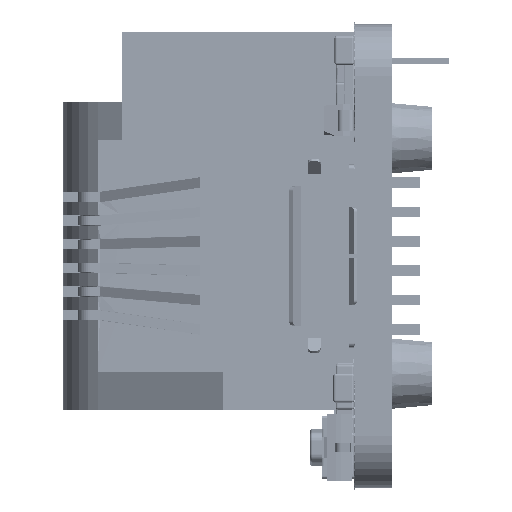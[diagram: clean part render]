
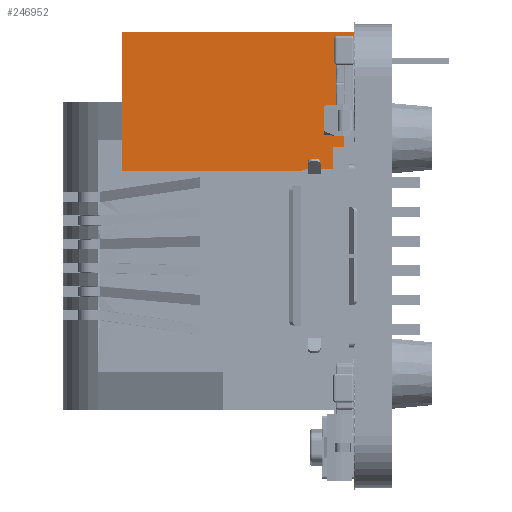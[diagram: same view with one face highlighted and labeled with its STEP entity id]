
A CAD part, left-side view. The second image highlights one B-rep face of the part: STEP entity #246952.
In plain terms, the highlighted planar face has unit normal (-1, 0, 0).
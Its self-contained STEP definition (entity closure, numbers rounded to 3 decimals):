
#199010 = LINE ( 'NONE', #199240, #199235 ) ;
#199229 = CARTESIAN_POINT ( 'NONE',  ( -5.75, 0., 7.285 ) ) ;
#199233 = DIRECTION ( 'NONE',  ( 0., -1., 0. ) ) ;
#199235 = VECTOR ( 'NONE', #199233, 1000. ) ;
#199240 = CARTESIAN_POINT ( 'NONE',  ( -5.75, 10., 7.285 ) ) ;
#199333 = CARTESIAN_POINT ( 'NONE',  ( -5.75, 10., 7.285 ) ) ;
#205293 = DIRECTION ( 'NONE',  ( 0., 0., 1. ) ) ;
#205295 = VECTOR ( 'NONE', #205293, 1000. ) ;
#205298 = CARTESIAN_POINT ( 'NONE',  ( -5.75, 10., 1.285 ) ) ;
#205300 = LINE ( 'NONE', #205298, #205295 ) ;
#205361 = DIRECTION ( 'NONE',  ( 0., 0., -1. ) ) ;
#205362 = VECTOR ( 'NONE', #205361, 1000. ) ;
#205364 = CARTESIAN_POINT ( 'NONE',  ( -5.75, 0., 7.285 ) ) ;
#205367 = LINE ( 'NONE', #205364, #205362 ) ;
#205798 = CARTESIAN_POINT ( 'NONE',  ( -5.75, 0., 1.285 ) ) ;
#205802 = CARTESIAN_POINT ( 'NONE',  ( -5.75, 10., 1.285 ) ) ;
#205807 = DIRECTION ( 'NONE',  ( 0., -1., 0. ) ) ;
#205808 = VECTOR ( 'NONE', #205807, 1000. ) ;
#205812 = CARTESIAN_POINT ( 'NONE',  ( -5.75, 10., 1.285 ) ) ;
#205815 = LINE ( 'NONE', #205812, #205808 ) ;
#205825 = DIRECTION ( 'NONE',  ( 0., 0., -1. ) ) ;
#205828 = DIRECTION ( 'NONE',  ( 1., 0., 0. ) ) ;
#205831 = AXIS2_PLACEMENT_3D ( 'NONE', #205843, #205828, #205825 ) ;
#205843 = CARTESIAN_POINT ( 'NONE',  ( -5.75, 10., 1.285 ) ) ;
#205844 = PLANE ( 'NONE',  #205831 ) ;
#205846 = FACE_OUTER_BOUND ( 'NONE', #246798, .T. ) ;
#245422 = EDGE_CURVE ( 'NONE', #245486, #245426, #199010, .T. ) ;
#245426 = VERTEX_POINT ( 'NONE', #199229 ) ;
#245486 = VERTEX_POINT ( 'NONE', #199333 ) ;
#246725 = EDGE_CURVE ( 'NONE', #245426, #246965, #205367, .T. ) ;
#246727 = ORIENTED_EDGE ( 'NONE', *, *, #245422, .F. ) ;
#246730 = ORIENTED_EDGE ( 'NONE', *, *, #246732, .F. ) ;
#246732 = EDGE_CURVE ( 'NONE', #246962, #245486, #205300, .T. ) ;
#246798 = EDGE_LOOP ( 'NONE', ( #246956, #246967, #246727, #246730 ) ) ;
#246952 = ADVANCED_FACE ( 'NONE', ( #205846 ), #205844, .F. ) ;
#246956 = ORIENTED_EDGE ( 'NONE', *, *, #246958, .T. ) ;
#246958 = EDGE_CURVE ( 'NONE', #246962, #246965, #205815, .T. ) ;
#246962 = VERTEX_POINT ( 'NONE', #205802 ) ;
#246965 = VERTEX_POINT ( 'NONE', #205798 ) ;
#246967 = ORIENTED_EDGE ( 'NONE', *, *, #246725, .F. ) ;
